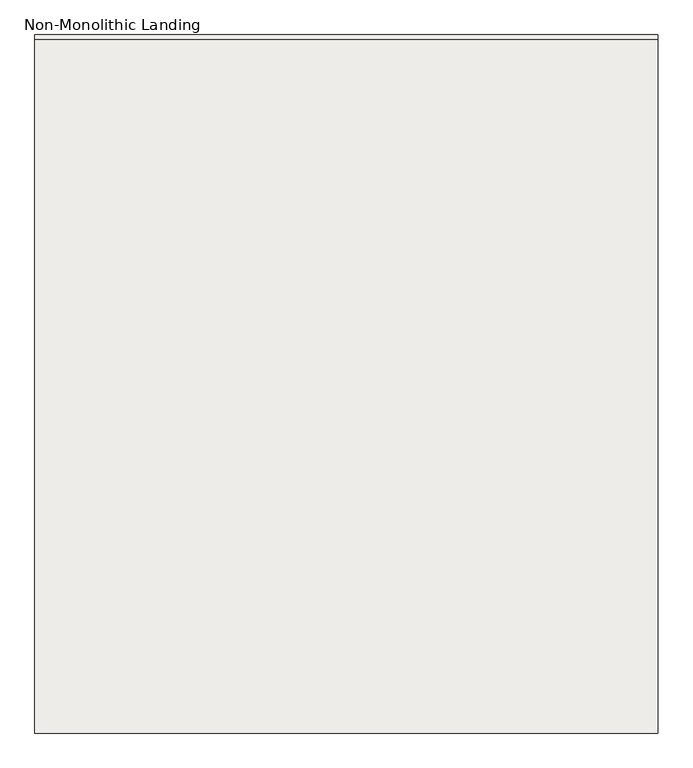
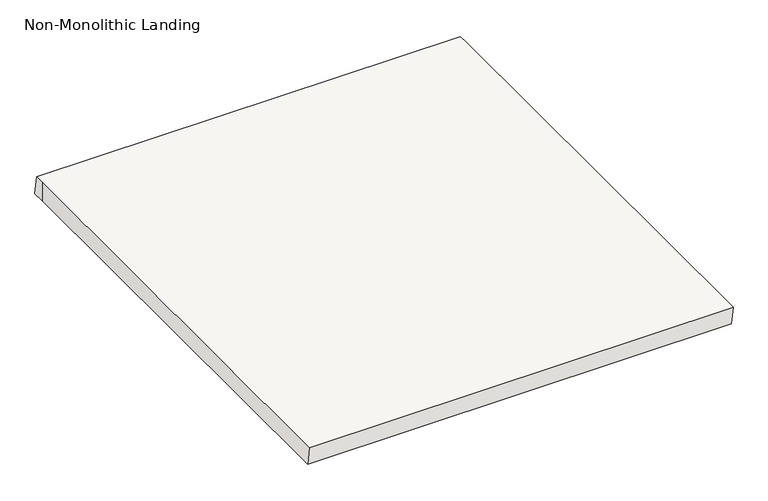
"""IFC4 building model written with IfcOpenShell, lengths in millimetres: slab geometry, Non-Monolithic Landing."""

from ifc_helpers import new_model, si_unit, origin, place, context, project, spatial, faceted_brep, source, transform, mapped, element, save


def non_monolithic_landing_c4304169(model_context):
    return source(origin(), model_context, "Body", "Brep", [
        faceted_brep([(3668.6567657, -9398.8611817, 1900.0), (3668.6567657, -9391.6243396, 1850.0), (2568.6567657, -9391.6243396, 1850.0), (2568.6567657, -9398.8611817, 1900.0), (3668.6567657, -10623.8611817, 1900.0), (3668.6567657, -9423.8611817, 1900.0), (2568.6567657, -9423.8611817, 1900.0), (2568.6567657, -10623.8611817, 1900.0), (3668.6567657, -9423.8611817, 1850.0), (3668.6567657, -10616.6243396, 1850.0), (2568.6567657, -10616.6243396, 1850.0), (2568.6567657, -9423.8611817, 1850.0)], [[[0, 1, 2, 3]], [[4, 5, 0, 3, 6, 7]], [[2, 1, 8, 9, 10, 11]], [[5, 4, 9, 8]], [[0, 5, 8, 1]], [[6, 3, 2, 11]], [[7, 6, 11, 10]], [[4, 7, 10, 9]]]),
    ])


if __name__ == "__main__":
    model = new_model("IFC4")
    model_context = context("Model", 3, world=origin())
    ifc_project = project(units=[si_unit("LENGTHUNIT", "METRE", prefix="MILLI")], contexts=[model_context])
    site = spatial("IfcSite", under=ifc_project)
    building = spatial("IfcBuilding", under=site)
    placement = place(None, origin())
    non_monolithic_landing_shape = non_monolithic_landing_c4304169(model_context)
    element("IfcSlab", 1, ObjectType="Non-Monolithic Landing", at=placement, inside=building, context=model_context, shape_type="MappedRepresentation", body=[
        mapped(non_monolithic_landing_shape, transform((0.0, 0.0, 0.0), x_axis=(1.0, 0.0, 0.0), y_axis=(0.0, 1.0, 0.0), z_axis=(0.0, 0.0, 1.0))),
    ])
    save(model, "model.ifc")
